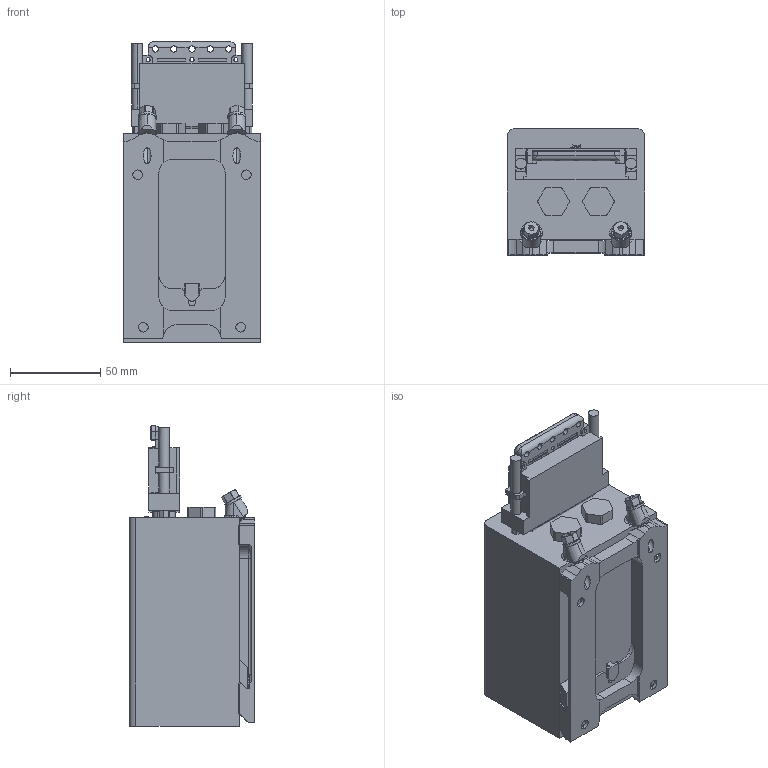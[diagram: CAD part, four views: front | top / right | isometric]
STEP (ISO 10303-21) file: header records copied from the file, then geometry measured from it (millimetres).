
FILE_DESCRIPTION (( 'STEP AP203' ), '1' );
FILE_NAME ('GSU75_011-03094-XX_R[117-00608-00]_C[011-03109-00]_rev1.STEP', '2025-02-12T18:19:38', ( '' ), ( '' ), 'SwSTEP 2.0', 'SolidWorks 2023', '' );
FILE_SCHEMA (( 'CONFIG_CONTROL_DESIGN' ));
Length unit declared in the file: millimetre
Products named in the file (1): GSU75_011-03094-XX_R[117-00608-00]_C[011-03109-00]_rev1
Bounding box: 76.2 x 69.98 x 166.75 mm (x, y, z)
Volume: 618510.7 mm3; surface area: 73048.9 mm2
Topology: 3 solids, 3 shells, 648 faces, 1750 edges, 1120 vertices
Faces by surface type: plane 296, cylinder 222, bspline 57, torus 40, cone 29, sphere 4
Entity records: 22103 total; most frequent: CARTESIAN_POINT 6333, ORIENTED_EDGE 3492, DIRECTION 3067, EDGE_CURVE 1746, VERTEX_POINT 1120, AXIS2_PLACEMENT_3D 1042, VECTOR 983, LINE 983
